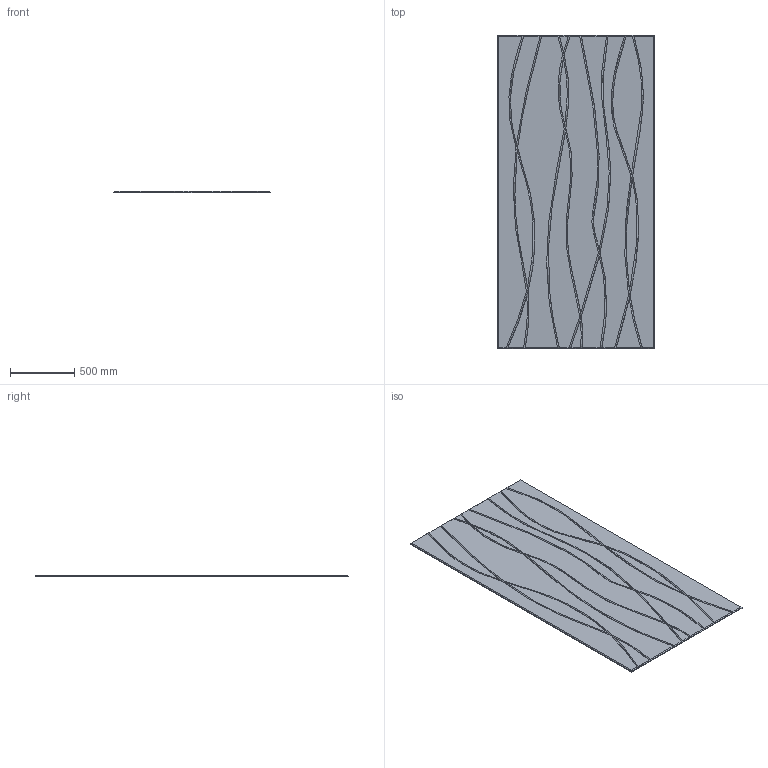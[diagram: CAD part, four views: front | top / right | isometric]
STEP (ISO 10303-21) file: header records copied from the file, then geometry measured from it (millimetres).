
FILE_DESCRIPTION(/* description */ (''),/* implementation_level */ '2;1');
FILE_NAME(/* name */ 'Y:\Design and Engineering\MaterialLogiq\CAD ASSETS\MASTER\PET ENGRAVED\WEB ASSETS\Organic 5.stp',/* time_stamp */ '2024-08-26T11:38:41-05:00',/* author */ ('Grant Baker'),/* organization */ (''),/* preprocessor_version */ 'ST-DEVELOPER v19',/* originating_system */ 'Autodesk Inventor 2023',/* authorisation */ '');
FILE_SCHEMA (('AUTOMOTIVE_DESIGN { 1 0 10303 214 3 1 1 }'));
Length unit declared in the file: inch
Products named in the file (1): Organic 5
Bounding box: 1219.2 x 2438.4 x 12.7 mm (x, y, z)
Volume: 36818415.4 mm3; surface area: 6113887.4 mm2
Topology: 1 solids, 1 shells, 90 faces, 188 edges, 100 vertices
Faces by surface type: bspline 48, plane 42
Entity records: 3709 total; most frequent: CARTESIAN_POINT 2215, ORIENTED_EDGE 376, EDGE_CURVE 188, DIRECTION 138, B_SPLINE_CURVE_WITH_KNOTS 136, VERTEX_POINT 100, FACE_OUTER_BOUND 90, EDGE_LOOP 90
